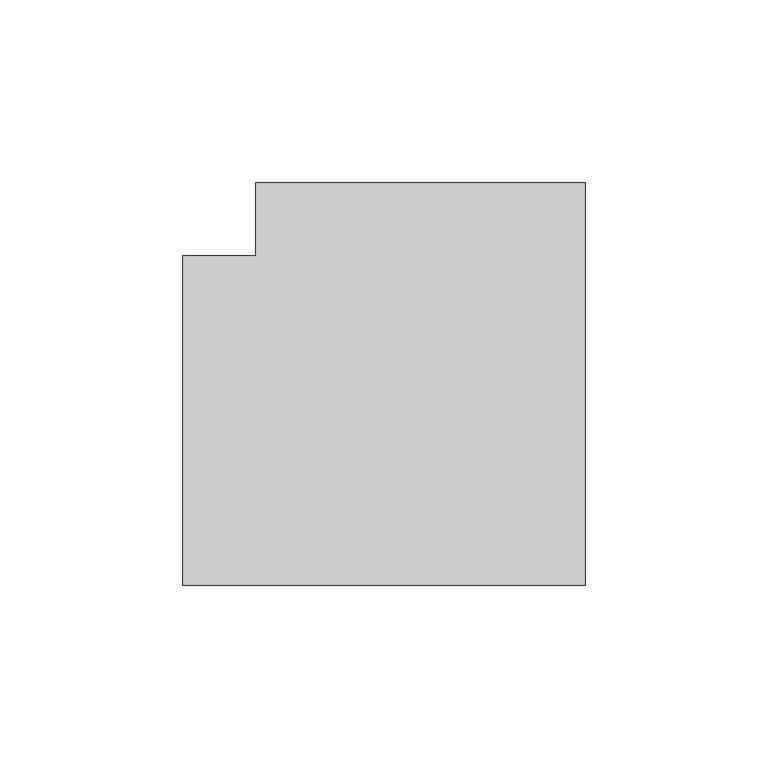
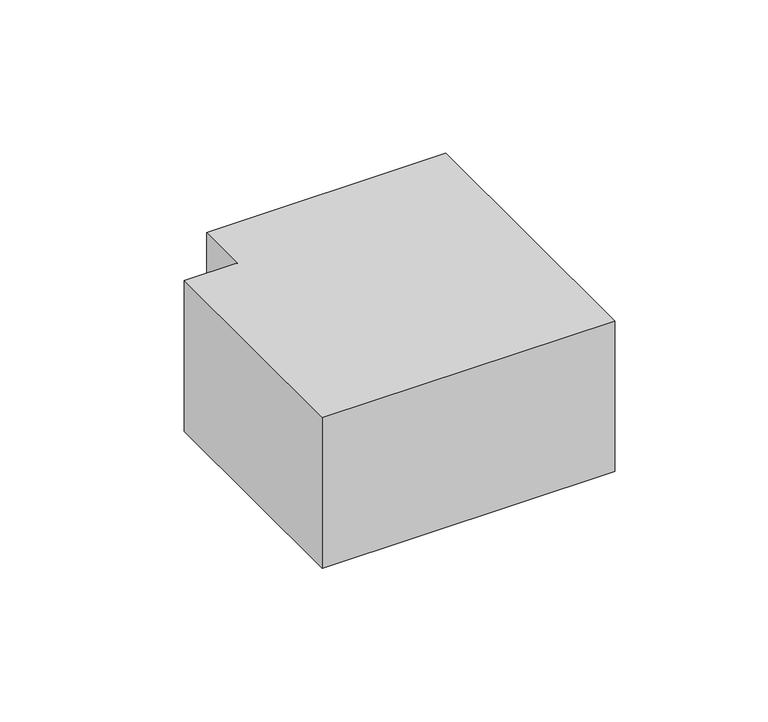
"""IFC4 building model written with IfcOpenShell, lengths in millimetres: duct fitting geometry, КНС_Угол_DKC : Угол внешний."""

from ifc_helpers import new_model, si_unit, frame, origin, place, context, project, spatial, polyline, outline, extrude, source, transform, mapped, element, save


def duct_fitting_284b123f(model_context):
    return source(origin(), model_context, "Body", "SweptSolid", [
        extrude(outline(polyline([(-45.0, 65.0), (45.0, 65.0), (45.0, -45.0), (-65.0, -45.0), (-65.0, 45.0), (-45.0, 45.0), (-45.0, 65.0)])), frame((0.0, 0.0, -30.0), z_axis=(0.0, 0.0, 1.0), x_axis=(1.0, 0.0, 0.0)), (0.0, 0.0, 1.0), 60.0),
    ])


if __name__ == "__main__":
    model = new_model("IFC4")
    model_context = context("Model", 3, world=origin())
    ifc_project = project(units=[si_unit("LENGTHUNIT", "METRE", prefix="MILLI")], contexts=[model_context])
    site = spatial("IfcSite", under=ifc_project)
    building = spatial("IfcBuilding", under=site)
    placement = place(None, origin())
    duct_fitting_shape = duct_fitting_284b123f(model_context)
    element("IfcDuctFitting", 1, ObjectType="КНС_Угол_DKC : Угол внешний", at=placement, inside=building, context=model_context, shape_type="MappedRepresentation", body=[
        mapped(duct_fitting_shape, transform((0.0, 0.0, 0.0), x_axis=(1.0, 0.0, 0.0), y_axis=(0.0, 1.0, 0.0), z_axis=(0.0, 0.0, 1.0))),
    ])
    save(model, "model.ifc")
